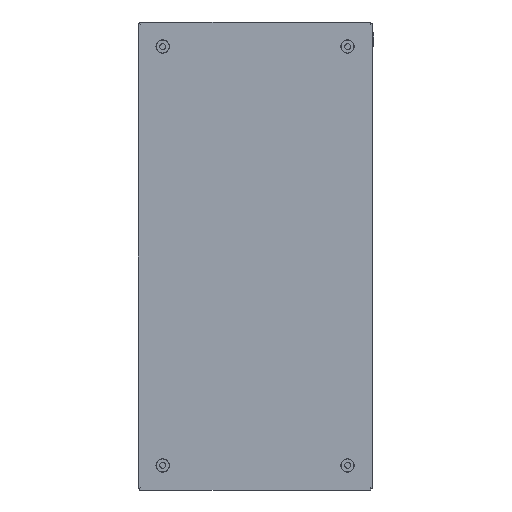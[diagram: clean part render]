
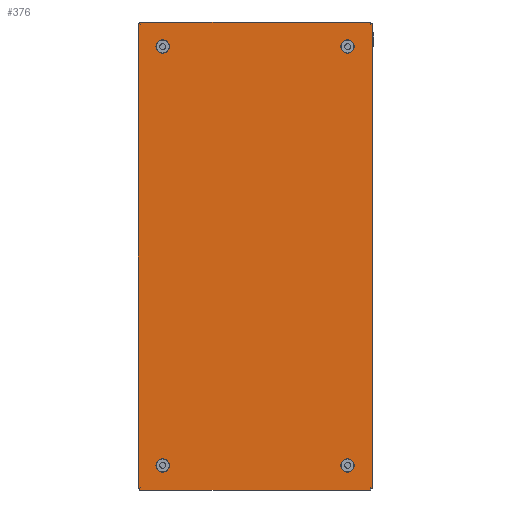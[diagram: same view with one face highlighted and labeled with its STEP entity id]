
A CAD part, front view. The second image highlights one B-rep face of the part: STEP entity #376.
In plain terms, the highlighted planar face has unit normal (0, -1, 0).
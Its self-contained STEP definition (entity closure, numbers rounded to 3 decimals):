
#376 = ADVANCED_FACE('',(#377,#397,#408,#428,#439),#561,.T.);
#377 = FACE_BOUND('',#378,.T.);
#378 = EDGE_LOOP('',(#379,#390));
#379 = ORIENTED_EDGE('',*,*,#380,.F.);
#380 = EDGE_CURVE('',#381,#383,#385,.T.);
#381 = VERTEX_POINT('',#382);
#382 = CARTESIAN_POINT('',(-79.,-1.2,-175.1));
#383 = VERTEX_POINT('',#384);
#384 = CARTESIAN_POINT('',(-79.,-1.2,-182.9));
#385 = CIRCLE('',#386,3.9);
#386 = AXIS2_PLACEMENT_3D('',#387,#388,#389);
#387 = CARTESIAN_POINT('',(-79.,-1.2,-179.));
#388 = DIRECTION('',(0.,-1.,0.));
#389 = DIRECTION('',(0.,0.,1.));
#390 = ORIENTED_EDGE('',*,*,#391,.F.);
#391 = EDGE_CURVE('',#383,#381,#392,.T.);
#392 = CIRCLE('',#393,3.9);
#393 = AXIS2_PLACEMENT_3D('',#394,#395,#396);
#394 = CARTESIAN_POINT('',(-79.,-1.2,-179.));
#395 = DIRECTION('',(0.,-1.,0.));
#396 = DIRECTION('',(0.,0.,1.));
#397 = FACE_BOUND('',#398,.T.);
#398 = EDGE_LOOP('',(#399));
#399 = ORIENTED_EDGE('',*,*,#400,.F.);
#400 = EDGE_CURVE('',#401,#401,#403,.T.);
#401 = VERTEX_POINT('',#402);
#402 = CARTESIAN_POINT('',(79.,-1.2,-182.9));
#403 = CIRCLE('',#404,3.9);
#404 = AXIS2_PLACEMENT_3D('',#405,#406,#407);
#405 = CARTESIAN_POINT('',(79.,-1.2,-179.));
#406 = DIRECTION('',(0.,-1.,0.));
#407 = DIRECTION('',(0.,0.,-1.));
#408 = FACE_BOUND('',#409,.T.);
#409 = EDGE_LOOP('',(#410,#421));
#410 = ORIENTED_EDGE('',*,*,#411,.F.);
#411 = EDGE_CURVE('',#412,#414,#416,.T.);
#412 = VERTEX_POINT('',#413);
#413 = CARTESIAN_POINT('',(79.,-1.2,182.9));
#414 = VERTEX_POINT('',#415);
#415 = CARTESIAN_POINT('',(79.,-1.2,175.1));
#416 = CIRCLE('',#417,3.9);
#417 = AXIS2_PLACEMENT_3D('',#418,#419,#420);
#418 = CARTESIAN_POINT('',(79.,-1.2,179.));
#419 = DIRECTION('',(0.,-1.,0.));
#420 = DIRECTION('',(0.,0.,1.));
#421 = ORIENTED_EDGE('',*,*,#422,.F.);
#422 = EDGE_CURVE('',#414,#412,#423,.T.);
#423 = CIRCLE('',#424,3.9);
#424 = AXIS2_PLACEMENT_3D('',#425,#426,#427);
#425 = CARTESIAN_POINT('',(79.,-1.2,179.));
#426 = DIRECTION('',(0.,-1.,0.));
#427 = DIRECTION('',(0.,0.,1.));
#428 = FACE_BOUND('',#429,.T.);
#429 = EDGE_LOOP('',(#430));
#430 = ORIENTED_EDGE('',*,*,#431,.F.);
#431 = EDGE_CURVE('',#432,#432,#434,.T.);
#432 = VERTEX_POINT('',#433);
#433 = CARTESIAN_POINT('',(-79.,-1.2,175.1));
#434 = CIRCLE('',#435,3.9);
#435 = AXIS2_PLACEMENT_3D('',#436,#437,#438);
#436 = CARTESIAN_POINT('',(-79.,-1.2,179.));
#437 = DIRECTION('',(0.,-1.,0.));
#438 = DIRECTION('',(0.,0.,-1.));
#439 = FACE_BOUND('',#440,.T.);
#440 = EDGE_LOOP('',(#441,#454,#465,#473,#484,#495,#503,#514,#525,#533,
    #544,#555));
#441 = ORIENTED_EDGE('',*,*,#442,.F.);
#442 = EDGE_CURVE('',#443,#445,#447,.T.);
#443 = VERTEX_POINT('',#444);
#444 = CARTESIAN_POINT('',(98.2,-1.2,198.2));
#445 = VERTEX_POINT('',#446);
#446 = CARTESIAN_POINT('',(100.,-1.2,198.574));
#447 = B_SPLINE_CURVE_WITH_KNOTS('',3,(#448,#449,#450,#451,#452,#453),
  .UNSPECIFIED.,.F.,.F.,(4,2,4),(0.004,0.005,
    0.006),.UNSPECIFIED.);
#448 = CARTESIAN_POINT('',(98.2,-1.2,198.2));
#449 = CARTESIAN_POINT('',(98.495,-1.2,198.287));
#450 = CARTESIAN_POINT('',(98.79,-1.2,198.371));
#451 = CARTESIAN_POINT('',(99.39,-1.2,198.498));
#452 = CARTESIAN_POINT('',(99.695,-1.2,198.543));
#453 = CARTESIAN_POINT('',(100.,-1.2,198.574));
#454 = ORIENTED_EDGE('',*,*,#455,.T.);
#455 = EDGE_CURVE('',#443,#456,#458,.T.);
#456 = VERTEX_POINT('',#457);
#457 = CARTESIAN_POINT('',(98.574,-1.2,200.));
#458 = B_SPLINE_CURVE_WITH_KNOTS('',3,(#459,#460,#461,#462,#463,#464),
  .UNSPECIFIED.,.F.,.F.,(4,2,4),(0.004,0.005,
    0.006),.UNSPECIFIED.);
#459 = CARTESIAN_POINT('',(98.2,-1.2,198.2));
#460 = CARTESIAN_POINT('',(98.287,-1.2,198.495));
#461 = CARTESIAN_POINT('',(98.371,-1.2,198.79));
#462 = CARTESIAN_POINT('',(98.498,-1.2,199.39));
#463 = CARTESIAN_POINT('',(98.543,-1.2,199.695));
#464 = CARTESIAN_POINT('',(98.574,-1.2,200.));
#465 = ORIENTED_EDGE('',*,*,#466,.T.);
#466 = EDGE_CURVE('',#456,#467,#469,.T.);
#467 = VERTEX_POINT('',#468);
#468 = CARTESIAN_POINT('',(-98.574,-1.2,200.));
#469 = LINE('',#470,#471);
#470 = CARTESIAN_POINT('',(2100.,-1.2,200.));
#471 = VECTOR('',#472,1.);
#472 = DIRECTION('',(-1.,0.,0.));
#473 = ORIENTED_EDGE('',*,*,#474,.F.);
#474 = EDGE_CURVE('',#475,#467,#477,.T.);
#475 = VERTEX_POINT('',#476);
#476 = CARTESIAN_POINT('',(-98.2,-1.2,198.2));
#477 = B_SPLINE_CURVE_WITH_KNOTS('',3,(#478,#479,#480,#481,#482,#483),
  .UNSPECIFIED.,.F.,.F.,(4,2,4),(0.004,0.005,
    0.006),.UNSPECIFIED.);
#478 = CARTESIAN_POINT('',(-98.2,-1.2,198.2));
#479 = CARTESIAN_POINT('',(-98.287,-1.2,198.495));
#480 = CARTESIAN_POINT('',(-98.371,-1.2,198.79));
#481 = CARTESIAN_POINT('',(-98.498,-1.2,199.39));
#482 = CARTESIAN_POINT('',(-98.543,-1.2,199.695));
#483 = CARTESIAN_POINT('',(-98.574,-1.2,200.));
#484 = ORIENTED_EDGE('',*,*,#485,.T.);
#485 = EDGE_CURVE('',#475,#486,#488,.T.);
#486 = VERTEX_POINT('',#487);
#487 = CARTESIAN_POINT('',(-100.,-1.2,198.574));
#488 = B_SPLINE_CURVE_WITH_KNOTS('',3,(#489,#490,#491,#492,#493,#494),
  .UNSPECIFIED.,.F.,.F.,(4,2,4),(0.004,0.005,
    0.006),.UNSPECIFIED.);
#489 = CARTESIAN_POINT('',(-98.2,-1.2,198.2));
#490 = CARTESIAN_POINT('',(-98.495,-1.2,198.287));
#491 = CARTESIAN_POINT('',(-98.79,-1.2,198.371));
#492 = CARTESIAN_POINT('',(-99.39,-1.2,198.498));
#493 = CARTESIAN_POINT('',(-99.695,-1.2,198.543));
#494 = CARTESIAN_POINT('',(-100.,-1.2,198.574));
#495 = ORIENTED_EDGE('',*,*,#496,.T.);
#496 = EDGE_CURVE('',#486,#497,#499,.T.);
#497 = VERTEX_POINT('',#498);
#498 = CARTESIAN_POINT('',(-100.,-1.2,-198.574));
#499 = LINE('',#500,#501);
#500 = CARTESIAN_POINT('',(-100.,-1.2,2200.));
#501 = VECTOR('',#502,1.);
#502 = DIRECTION('',(0.,0.,-1.));
#503 = ORIENTED_EDGE('',*,*,#504,.F.);
#504 = EDGE_CURVE('',#505,#497,#507,.T.);
#505 = VERTEX_POINT('',#506);
#506 = CARTESIAN_POINT('',(-98.2,-1.2,-198.2));
#507 = B_SPLINE_CURVE_WITH_KNOTS('',3,(#508,#509,#510,#511,#512,#513),
  .UNSPECIFIED.,.F.,.F.,(4,2,4),(0.004,0.005,
    0.006),.UNSPECIFIED.);
#508 = CARTESIAN_POINT('',(-98.2,-1.2,-198.2));
#509 = CARTESIAN_POINT('',(-98.495,-1.2,-198.287));
#510 = CARTESIAN_POINT('',(-98.79,-1.2,-198.371));
#511 = CARTESIAN_POINT('',(-99.39,-1.2,-198.498));
#512 = CARTESIAN_POINT('',(-99.695,-1.2,-198.543));
#513 = CARTESIAN_POINT('',(-100.,-1.2,-198.574));
#514 = ORIENTED_EDGE('',*,*,#515,.T.);
#515 = EDGE_CURVE('',#505,#516,#518,.T.);
#516 = VERTEX_POINT('',#517);
#517 = CARTESIAN_POINT('',(-98.574,-1.2,-200.));
#518 = B_SPLINE_CURVE_WITH_KNOTS('',3,(#519,#520,#521,#522,#523,#524),
  .UNSPECIFIED.,.F.,.F.,(4,2,4),(0.004,0.005,
    0.006),.UNSPECIFIED.);
#519 = CARTESIAN_POINT('',(-98.2,-1.2,-198.2));
#520 = CARTESIAN_POINT('',(-98.287,-1.2,-198.495));
#521 = CARTESIAN_POINT('',(-98.371,-1.2,-198.79));
#522 = CARTESIAN_POINT('',(-98.498,-1.2,-199.39));
#523 = CARTESIAN_POINT('',(-98.543,-1.2,-199.695));
#524 = CARTESIAN_POINT('',(-98.574,-1.2,-200.));
#525 = ORIENTED_EDGE('',*,*,#526,.T.);
#526 = EDGE_CURVE('',#516,#527,#529,.T.);
#527 = VERTEX_POINT('',#528);
#528 = CARTESIAN_POINT('',(98.574,-1.2,-200.));
#529 = LINE('',#530,#531);
#530 = CARTESIAN_POINT('',(-2100.,-1.2,-200.));
#531 = VECTOR('',#532,1.);
#532 = DIRECTION('',(1.,0.,0.));
#533 = ORIENTED_EDGE('',*,*,#534,.F.);
#534 = EDGE_CURVE('',#535,#527,#537,.T.);
#535 = VERTEX_POINT('',#536);
#536 = CARTESIAN_POINT('',(98.2,-1.2,-198.2));
#537 = B_SPLINE_CURVE_WITH_KNOTS('',3,(#538,#539,#540,#541,#542,#543),
  .UNSPECIFIED.,.F.,.F.,(4,2,4),(0.004,0.005,
    0.006),.UNSPECIFIED.);
#538 = CARTESIAN_POINT('',(98.2,-1.2,-198.2));
#539 = CARTESIAN_POINT('',(98.287,-1.2,-198.495));
#540 = CARTESIAN_POINT('',(98.371,-1.2,-198.79));
#541 = CARTESIAN_POINT('',(98.498,-1.2,-199.39));
#542 = CARTESIAN_POINT('',(98.543,-1.2,-199.695));
#543 = CARTESIAN_POINT('',(98.574,-1.2,-200.));
#544 = ORIENTED_EDGE('',*,*,#545,.T.);
#545 = EDGE_CURVE('',#535,#546,#548,.T.);
#546 = VERTEX_POINT('',#547);
#547 = CARTESIAN_POINT('',(100.,-1.2,-198.574));
#548 = B_SPLINE_CURVE_WITH_KNOTS('',3,(#549,#550,#551,#552,#553,#554),
  .UNSPECIFIED.,.F.,.F.,(4,2,4),(0.004,0.005,
    0.006),.UNSPECIFIED.);
#549 = CARTESIAN_POINT('',(98.2,-1.2,-198.2));
#550 = CARTESIAN_POINT('',(98.495,-1.2,-198.287));
#551 = CARTESIAN_POINT('',(98.79,-1.2,-198.371));
#552 = CARTESIAN_POINT('',(99.39,-1.2,-198.498));
#553 = CARTESIAN_POINT('',(99.695,-1.2,-198.543));
#554 = CARTESIAN_POINT('',(100.,-1.2,-198.574));
#555 = ORIENTED_EDGE('',*,*,#556,.T.);
#556 = EDGE_CURVE('',#546,#445,#557,.T.);
#557 = LINE('',#558,#559);
#558 = CARTESIAN_POINT('',(100.,-1.2,-2200.));
#559 = VECTOR('',#560,1.);
#560 = DIRECTION('',(0.,0.,1.));
#561 = PLANE('',#562);
#562 = AXIS2_PLACEMENT_3D('',#563,#564,#565);
#563 = CARTESIAN_POINT('',(0.,-1.2,0.));
#564 = DIRECTION('',(0.,-1.,0.));
#565 = DIRECTION('',(0.,-0.,-1.));
